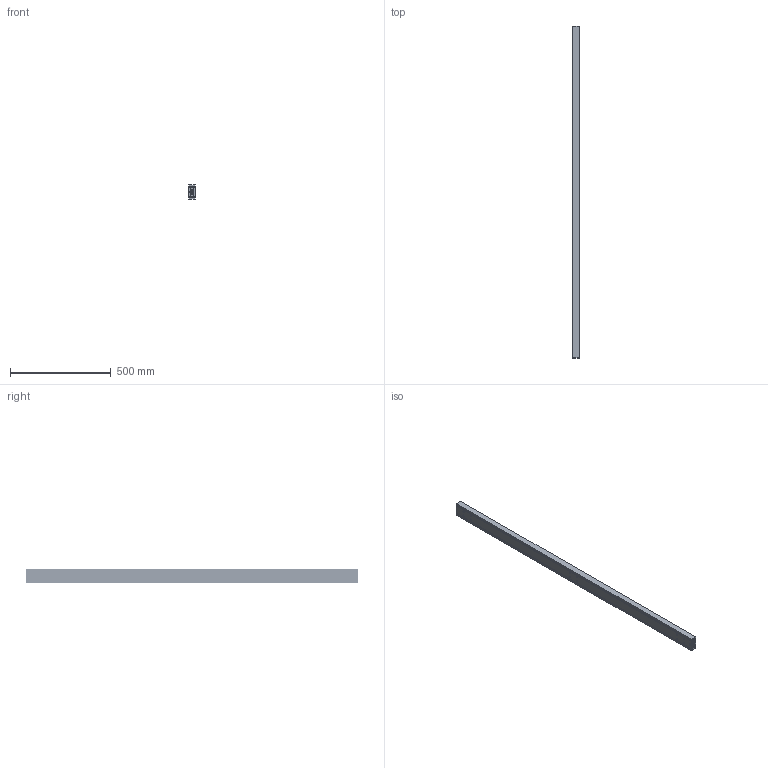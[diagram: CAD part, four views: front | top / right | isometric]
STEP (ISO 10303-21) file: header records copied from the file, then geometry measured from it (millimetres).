
FILE_DESCRIPTION(/* description */ (''),/* implementation_level */ '2;1');
FILE_NAME(/* name */ 'D:\Zeichnungen Schienen Komplett\MX-DTP70\MX-DTP70.165\MX-DTP70.165_eingefahren.step',/* time_stamp */ '2022-08-30T15:20:24+02:00',/* author */ ('zmile'),/* organization */ (''),/* preprocessor_version */ 'ST-DEVELOPER v16.13',/* originating_system */ 'AutoCAD Mechanical',/* authorisation */ '');
FILE_SCHEMA (('AUTOMOTIVE_DESIGN { 1 0 10303 214 3 1 1 }'));
Products named in the file (1): Product
Bounding box: 32 x 1650 x 70 mm (x, y, z)
Volume: 2935040 mm3; surface area: 1043179.6 mm2
Topology: 115 solids, 115 shells, 434 faces, 1240 edges, 824 vertices
Faces by surface type: cylinder 148, sphere 108, plane 86, bspline 86, torus 6
Full cylindrical faces by diameter (mm): 9 x108, 13 x2
Entity records: 197192 total; most frequent: CARTESIAN_POINT 187142, ORIENTED_EDGE 1812, DIRECTION 1742, EDGE_CURVE 906, EDGE_LOOP 822, VERTEX_POINT 822, AXIS2_PLACEMENT_3D 765, FACE_OUTER_BOUND 434
